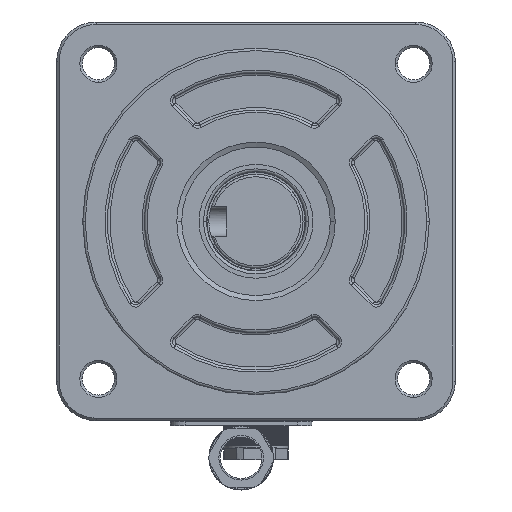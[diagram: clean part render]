
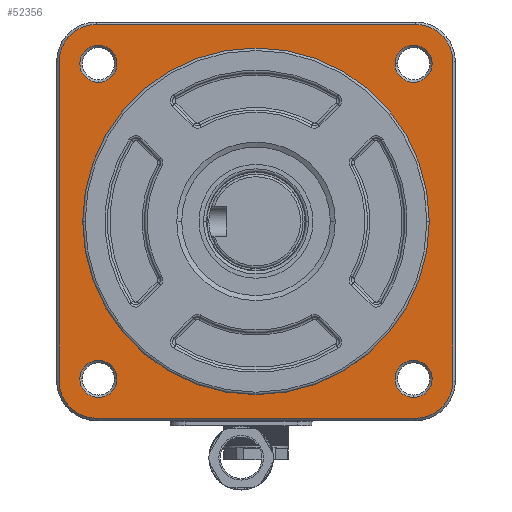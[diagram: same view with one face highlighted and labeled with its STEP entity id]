
A CAD part, front view. The second image highlights one B-rep face of the part: STEP entity #52356.
In plain terms, the highlighted planar face has unit normal (0, -1, 0).
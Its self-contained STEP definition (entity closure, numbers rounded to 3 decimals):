
#17608=CARTESIAN_POINT('',(-32.25,-18.5,32.25));
#17609=DIRECTION('',(0.,-1.,0.));
#17610=DIRECTION('',(0.,0.,1.));
#17611=AXIS2_PLACEMENT_3D('',#17608,#17609,#17610);
#17613=CARTESIAN_POINT('',(32.25,-18.5,32.25));
#17614=DIRECTION('',(0.,-1.,0.));
#17615=DIRECTION('',(1.,0.,0.));
#17616=AXIS2_PLACEMENT_3D('',#17613,#17614,#17615);
#17618=CARTESIAN_POINT('',(32.25,-18.5,-32.25));
#17619=DIRECTION('',(0.,-1.,0.));
#17620=DIRECTION('',(0.,0.,-1.));
#17621=AXIS2_PLACEMENT_3D('',#17618,#17619,#17620);
#17623=CARTESIAN_POINT('',(-32.25,-18.5,-32.25));
#17624=DIRECTION('',(0.,-1.,0.));
#17625=DIRECTION('',(-1.,0.,0.));
#17626=AXIS2_PLACEMENT_3D('',#17623,#17624,#17625);
#17628=CARTESIAN_POINT('',(0.,-18.5,0.));
#17629=DIRECTION('',(0.,1.,0.));
#17630=DIRECTION('',(1.,0.,0.));
#17631=AXIS2_PLACEMENT_3D('',#17628,#17629,#17630);
#17633=CARTESIAN_POINT('',(0.,-18.5,0.));
#17634=DIRECTION('',(0.,1.,0.));
#17635=DIRECTION('',(-1.,0.,0.));
#17636=AXIS2_PLACEMENT_3D('',#17633,#17634,#17635);
#17638=CARTESIAN_POINT('',(31.82,-18.5,
-31.82));
#17639=DIRECTION('',(0.,1.,0.));
#17640=DIRECTION('',(0.,0.,-1.));
#17641=AXIS2_PLACEMENT_3D('',#17638,#17639,#17640);
#17643=CARTESIAN_POINT('',(31.82,-18.5,
-31.82));
#17644=DIRECTION('',(0.,1.,0.));
#17645=DIRECTION('',(0.,0.,1.));
#17646=AXIS2_PLACEMENT_3D('',#17643,#17644,#17645);
#17648=CARTESIAN_POINT('',(31.82,-18.5,
31.82));
#17649=DIRECTION('',(0.,1.,0.));
#17650=DIRECTION('',(-1.,0.,0.));
#17651=AXIS2_PLACEMENT_3D('',#17648,#17649,#17650);
#17653=CARTESIAN_POINT('',(31.82,-18.5,
31.82));
#17654=DIRECTION('',(0.,1.,0.));
#17655=DIRECTION('',(1.,0.,0.));
#17656=AXIS2_PLACEMENT_3D('',#17653,#17654,#17655);
#17658=CARTESIAN_POINT('',(-31.82,-18.5,
31.82));
#17659=DIRECTION('',(0.,1.,0.));
#17660=DIRECTION('',(0.,0.,-1.));
#17661=AXIS2_PLACEMENT_3D('',#17658,#17659,#17660);
#17663=CARTESIAN_POINT('',(-31.82,-18.5,
31.82));
#17664=DIRECTION('',(0.,1.,0.));
#17665=DIRECTION('',(0.,0.,1.));
#17666=AXIS2_PLACEMENT_3D('',#17663,#17664,#17665);
#17668=CARTESIAN_POINT('',(-31.82,-18.5,
-31.82));
#17669=DIRECTION('',(0.,1.,0.));
#17670=DIRECTION('',(1.,0.,0.));
#17671=AXIS2_PLACEMENT_3D('',#17668,#17669,#17670);
#17673=CARTESIAN_POINT('',(-31.82,-18.5,
-31.82));
#17674=DIRECTION('',(0.,1.,0.));
#17675=DIRECTION('',(-1.,0.,0.));
#17676=AXIS2_PLACEMENT_3D('',#17673,#17674,#17675);
#17678=DIRECTION('',(0.,0.,1.));
#17679=VECTOR('',#17678,64.5);
#17680=CARTESIAN_POINT('',(-39.75,-18.5,
-32.25));
#17681=LINE('',#17680,#17679);
#17694=DIRECTION('',(-1.,0.,0.));
#17695=VECTOR('',#17694,64.5);
#17696=CARTESIAN_POINT('',(32.25,-18.5,-39.75));
#17697=LINE('',#17696,#17695);
#17710=DIRECTION('',(0.,0.,-1.));
#17711=VECTOR('',#17710,64.5);
#17712=CARTESIAN_POINT('',(39.75,-18.5,
32.25));
#17713=LINE('',#17712,#17711);
#18428=DIRECTION('',(1.,0.,0.));
#18429=VECTOR('',#18428,64.5);
#18430=CARTESIAN_POINT('',(-32.25,-18.5,
39.75));
#18431=LINE('',#18430,#18429);
#24255=CARTESIAN_POINT('',(-28.07,-18.5,
-31.82));
#24256=CARTESIAN_POINT('',(-35.57,-18.5,
-31.82));
#24257=VERTEX_POINT('',#24255);
#24258=VERTEX_POINT('',#24256);
#24259=CARTESIAN_POINT('',(-39.75,-18.5,
-32.25));
#24260=CARTESIAN_POINT('',(-39.75,-18.5,
32.25));
#24261=VERTEX_POINT('',#24259);
#24262=VERTEX_POINT('',#24260);
#24263=CARTESIAN_POINT('',(-32.25,-18.5,39.75));
#24264=VERTEX_POINT('',#24263);
#24265=CARTESIAN_POINT('',(32.25,-18.5,
39.75));
#24266=VERTEX_POINT('',#24265);
#24267=CARTESIAN_POINT('',(39.75,-18.5,32.25));
#24268=VERTEX_POINT('',#24267);
#24269=CARTESIAN_POINT('',(39.75,-18.5,
-32.25));
#24270=VERTEX_POINT('',#24269);
#24271=CARTESIAN_POINT('',(32.25,-18.5,-39.75));
#24272=VERTEX_POINT('',#24271);
#24273=CARTESIAN_POINT('',(-32.25,-18.5,-39.75));
#24274=VERTEX_POINT('',#24273);
#24275=CARTESIAN_POINT('',(35.,-18.5,0.));
#24276=CARTESIAN_POINT('',(-35.,-18.5,0.));
#24277=VERTEX_POINT('',#24275);
#24278=VERTEX_POINT('',#24276);
#24279=CARTESIAN_POINT('',(31.82,-18.5,
-35.57));
#24280=CARTESIAN_POINT('',(31.82,-18.5,
-28.07));
#24281=VERTEX_POINT('',#24279);
#24282=VERTEX_POINT('',#24280);
#24283=CARTESIAN_POINT('',(28.07,-18.5,
31.82));
#24284=CARTESIAN_POINT('',(35.57,-18.5,
31.82));
#24285=VERTEX_POINT('',#24283);
#24286=VERTEX_POINT('',#24284);
#24287=CARTESIAN_POINT('',(-31.82,-18.5,
28.07));
#24288=CARTESIAN_POINT('',(-31.82,-18.5,
35.57));
#24289=VERTEX_POINT('',#24287);
#24290=VERTEX_POINT('',#24288);
#52304=CARTESIAN_POINT('',(0.,-18.5,0.));
#52305=DIRECTION('',(0.,1.,0.));
#52306=DIRECTION('',(-1.,0.,0.));
#52307=AXIS2_PLACEMENT_3D('',#52304,#52305,#52306);
#52308=PLANE('',#52307);
#52310=ORIENTED_EDGE('',*,*,#52309,.T.);
#52312=ORIENTED_EDGE('',*,*,#52311,.F.);
#52314=ORIENTED_EDGE('',*,*,#52313,.T.);
#52315=ORIENTED_EDGE('',*,*,#52294,.F.);
#52317=ORIENTED_EDGE('',*,*,#52316,.T.);
#52319=ORIENTED_EDGE('',*,*,#52318,.F.);
#52321=ORIENTED_EDGE('',*,*,#52320,.T.);
#52323=ORIENTED_EDGE('',*,*,#52322,.F.);
#52324=EDGE_LOOP('',(#52310,#52312,#52314,#52315,#52317,#52319,#52321,#52323));
#52325=FACE_OUTER_BOUND('',#52324,.F.);
#52327=ORIENTED_EDGE('',*,*,#52326,.F.);
#52329=ORIENTED_EDGE('',*,*,#52328,.F.);
#52330=EDGE_LOOP('',(#52327,#52329));
#52331=FACE_BOUND('',#52330,.F.);
#52333=ORIENTED_EDGE('',*,*,#52332,.F.);
#52335=ORIENTED_EDGE('',*,*,#52334,.F.);
#52336=EDGE_LOOP('',(#52333,#52335));
#52337=FACE_BOUND('',#52336,.F.);
#52339=ORIENTED_EDGE('',*,*,#52338,.F.);
#52341=ORIENTED_EDGE('',*,*,#52340,.F.);
#52342=EDGE_LOOP('',(#52339,#52341));
#52343=FACE_BOUND('',#52342,.F.);
#52345=ORIENTED_EDGE('',*,*,#52344,.F.);
#52347=ORIENTED_EDGE('',*,*,#52346,.F.);
#52348=EDGE_LOOP('',(#52345,#52347));
#52349=FACE_BOUND('',#52348,.F.);
#52351=ORIENTED_EDGE('',*,*,#52350,.F.);
#52353=ORIENTED_EDGE('',*,*,#52352,.F.);
#52354=EDGE_LOOP('',(#52351,#52353));
#52355=FACE_BOUND('',#52354,.F.);
#17612=CIRCLE('',#17611,7.5);
#17617=CIRCLE('',#17616,7.5);
#17622=CIRCLE('',#17621,7.5);
#17627=CIRCLE('',#17626,7.5);
#17632=CIRCLE('',#17631,35.);
#17637=CIRCLE('',#17636,35.);
#17642=CIRCLE('',#17641,3.75);
#17647=CIRCLE('',#17646,3.75);
#17652=CIRCLE('',#17651,3.75);
#17657=CIRCLE('',#17656,3.75);
#17662=CIRCLE('',#17661,3.75);
#17667=CIRCLE('',#17666,3.75);
#17672=CIRCLE('',#17671,3.75);
#17677=CIRCLE('',#17676,3.75);
#52294=EDGE_CURVE('',#24268,#24266,#17617,.T.);
#52309=EDGE_CURVE('',#24261,#24262,#17681,.T.);
#52311=EDGE_CURVE('',#24264,#24262,#17612,.T.);
#52313=EDGE_CURVE('',#24264,#24266,#18431,.T.);
#52316=EDGE_CURVE('',#24268,#24270,#17713,.T.);
#52318=EDGE_CURVE('',#24272,#24270,#17622,.T.);
#52320=EDGE_CURVE('',#24272,#24274,#17697,.T.);
#52322=EDGE_CURVE('',#24261,#24274,#17627,.T.);
#52326=EDGE_CURVE('',#24277,#24278,#17632,.T.);
#52328=EDGE_CURVE('',#24278,#24277,#17637,.T.);
#52332=EDGE_CURVE('',#24281,#24282,#17642,.T.);
#52334=EDGE_CURVE('',#24282,#24281,#17647,.T.);
#52338=EDGE_CURVE('',#24285,#24286,#17652,.T.);
#52340=EDGE_CURVE('',#24286,#24285,#17657,.T.);
#52344=EDGE_CURVE('',#24289,#24290,#17662,.T.);
#52346=EDGE_CURVE('',#24290,#24289,#17667,.T.);
#52350=EDGE_CURVE('',#24257,#24258,#17672,.T.);
#52352=EDGE_CURVE('',#24258,#24257,#17677,.T.);
#52356=ADVANCED_FACE('',(#52325,#52331,#52337,#52343,#52349,#52355),#52308,.F.);
